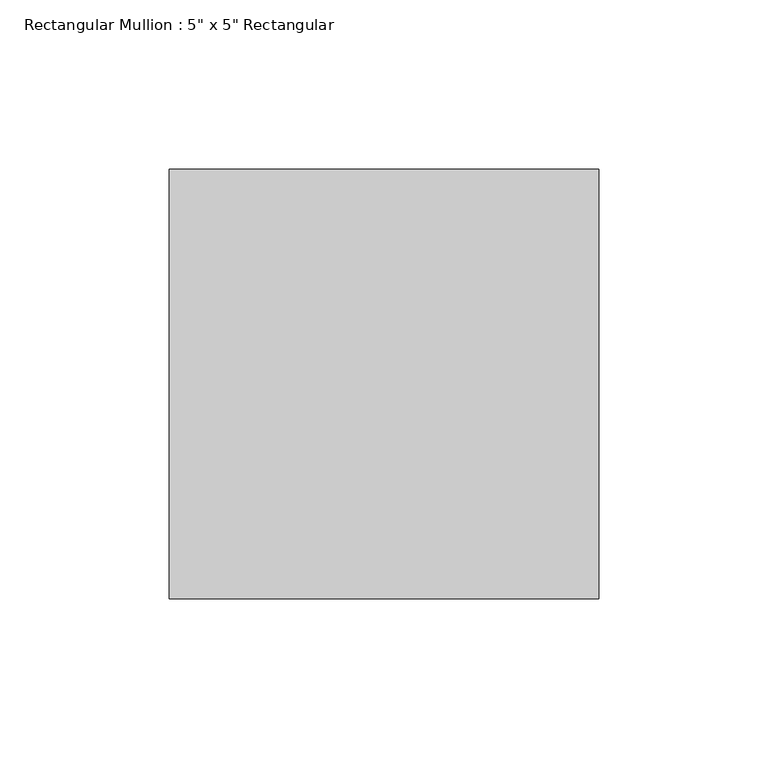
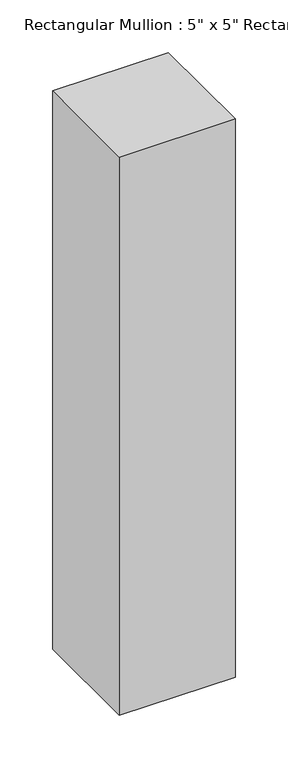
"""IFC4 building model written with IfcOpenShell, lengths in millimetres: member geometry."""

from ifc_helpers import new_model, si_unit, frame, origin, place, context, project, spatial, polyline, outline, extrude, source, transform, mapped, element, save


def member_f846b880(model_context):
    return source(origin(), model_context, "Body", "SweptSolid", [
        extrude(outline(polyline([(0.0, 63.5), (0.0, -63.5), (-127.0, -63.5), (-127.0, 63.5), (0.0, 63.5)])), frame((0.0, 0.0, -647.7), z_axis=(0.0, 0.0, 1.0), x_axis=(1.0, 0.0, 0.0)), (0.0, 0.0, 1.0), 647.7),
    ])


if __name__ == "__main__":
    model = new_model("IFC4")
    model_context = context("Model", 3, world=origin())
    ifc_project = project(units=[si_unit("LENGTHUNIT", "METRE", prefix="MILLI")], contexts=[model_context])
    site = spatial("IfcSite", under=ifc_project)
    building = spatial("IfcBuilding", under=site)
    placement = place(None, origin())
    member_shape = member_f846b880(model_context)
    element("IfcMember", 1, ObjectType="Rectangular Mullion : 5\" x 5\" Rectangular", at=placement, inside=building, context=model_context, shape_type="MappedRepresentation", body=[
        mapped(member_shape, transform((0.0, 0.0, 0.0), x_axis=(1.0, 0.0, 0.0), y_axis=(0.0, 1.0, 0.0), z_axis=(0.0, 0.0, 1.0))),
    ])
    save(model, "model.ifc")
